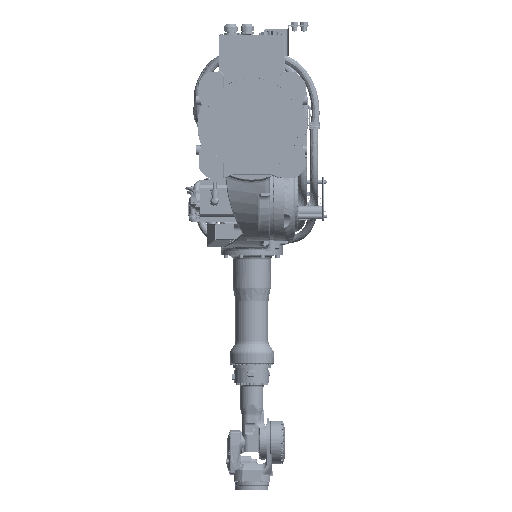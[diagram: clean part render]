
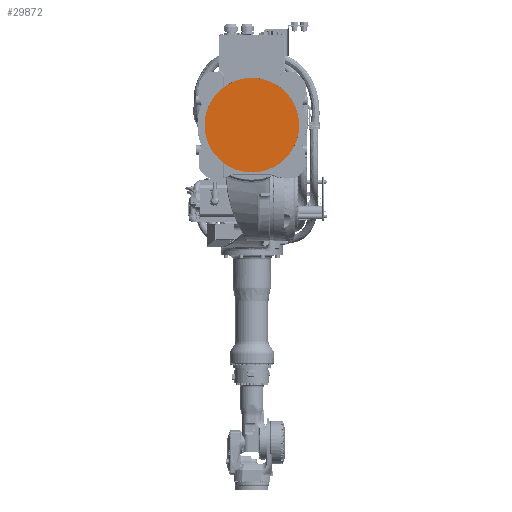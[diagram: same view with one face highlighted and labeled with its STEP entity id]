
A CAD part, front view. The second image highlights one B-rep face of the part: STEP entity #29872.
In plain terms, the highlighted planar face has unit normal (0, -1, 0) as drawn and (0, 0, -1) by its records, which use the part's own axes.
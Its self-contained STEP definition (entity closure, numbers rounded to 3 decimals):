
#6068=CARTESIAN_POINT('',(0.,0.,10.5));
#6069=DIRECTION('',(0.,0.,-1.));
#6070=DIRECTION('',(-1.,0.,0.));
#6071=AXIS2_PLACEMENT_3D('',#6068,#6069,#6070);
#6088=CARTESIAN_POINT('',(0.,0.,10.5));
#6089=DIRECTION('',(0.,0.,1.));
#6090=DIRECTION('',(-1.,0.,0.));
#6091=AXIS2_PLACEMENT_3D('',#6088,#6089,#6090);
#6093=CARTESIAN_POINT('',(0.,0.,10.5));
#6094=DIRECTION('',(0.,0.,1.));
#6095=DIRECTION('',(1.,0.,0.));
#6096=AXIS2_PLACEMENT_3D('',#6093,#6094,#6095);
#6098=CARTESIAN_POINT('',(0.,0.,10.5));
#6099=DIRECTION('',(0.,0.,-1.));
#6100=DIRECTION('',(1.,0.,0.));
#6101=AXIS2_PLACEMENT_3D('',#6098,#6099,#6100);
#18513=CARTESIAN_POINT('',(199.6,0.,10.5));
#18514=CARTESIAN_POINT('',(-199.6,0.218,10.5));
#18515=VERTEX_POINT('',#18513);
#18516=VERTEX_POINT('',#18514);
#18517=CARTESIAN_POINT('',(-199.6,0.,10.5));
#18518=VERTEX_POINT('',#18517);
#18519=CARTESIAN_POINT('',(199.6,-0.218,10.5));
#18520=VERTEX_POINT('',#18519);
#29859=CARTESIAN_POINT('',(0.,0.,10.5));
#29860=DIRECTION('',(0.,0.,-1.));
#29861=DIRECTION('',(1.,0.,0.));
#29862=AXIS2_PLACEMENT_3D('',#29859,#29860,#29861);
#29863=PLANE('',#29862);
#29865=ORIENTED_EDGE('',*,*,#29864,.T.);
#29867=ORIENTED_EDGE('',*,*,#29866,.F.);
#29868=ORIENTED_EDGE('',*,*,#29848,.T.);
#29869=ORIENTED_EDGE('',*,*,#29846,.F.);
#29870=EDGE_LOOP('',(#29865,#29867,#29868,#29869));
#29871=FACE_OUTER_BOUND('',#29870,.F.);
#29872=ADVANCED_FACE('',(#29871),#29863,.T.);
#6072=CIRCLE('',#6071,199.6);
#6092=CIRCLE('',#6091,199.6);
#6097=CIRCLE('',#6096,199.6);
#6102=CIRCLE('',#6101,199.6);
#29846=EDGE_CURVE('',#18518,#18516,#6072,.T.);
#29848=EDGE_CURVE('',#18515,#18516,#6097,.T.);
#29864=EDGE_CURVE('',#18518,#18520,#6092,.T.);
#29866=EDGE_CURVE('',#18515,#18520,#6102,.T.);
